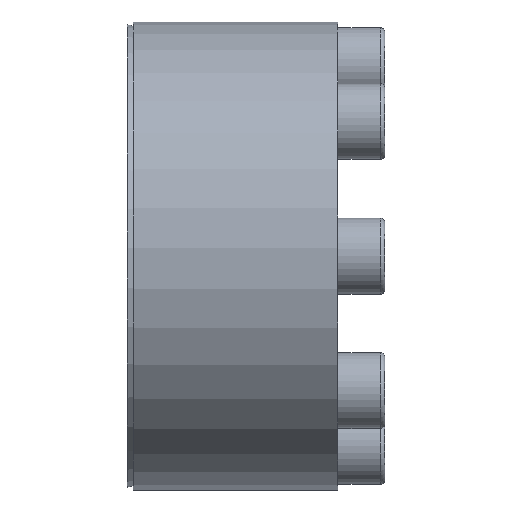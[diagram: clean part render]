
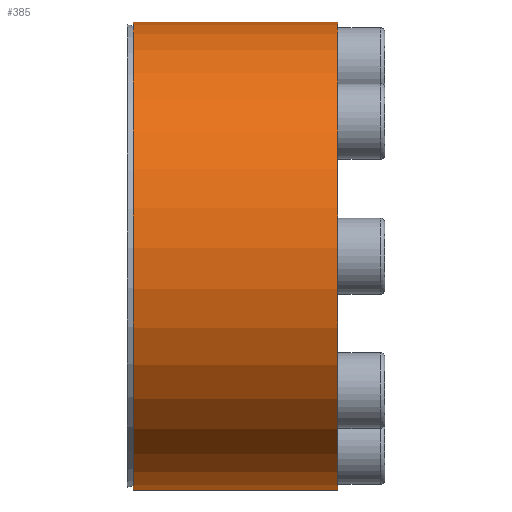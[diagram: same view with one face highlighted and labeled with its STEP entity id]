
A CAD part, left-side view. The second image highlights one B-rep face of the part: STEP entity #385.
In plain terms, the highlighted cylindrical face has radius 40 mm (diameter 80 mm), a partial arc.
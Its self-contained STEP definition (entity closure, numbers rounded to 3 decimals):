
#385 = ADVANCED_FACE( '', ( #600 ), #601, .T. );
#600 = FACE_OUTER_BOUND( '', #720, .T. );
#601 = CYLINDRICAL_SURFACE( '', #721, 40. );
#720 = EDGE_LOOP( '', ( #909, #910, #911, #912 ) );
#721 = AXIS2_PLACEMENT_3D( '', #913, #914, #915 );
#909 = ORIENTED_EDGE( '', *, *, #1138, .T. );
#910 = ORIENTED_EDGE( '', *, *, #1142, .T. );
#911 = ORIENTED_EDGE( '', *, *, #1133, .T. );
#912 = ORIENTED_EDGE( '', *, *, #1119, .T. );
#913 = CARTESIAN_POINT( '', ( 0., -60., 0. ) );
#914 = DIRECTION( '', ( 0., -1., 0. ) );
#915 = DIRECTION( '', ( 0., 0., 1. ) );
#1119 = EDGE_CURVE( '', #1238, #1236, #1239, .T. );
#1133 = EDGE_CURVE( '', #1264, #1238, #1265, .T. );
#1138 = EDGE_CURVE( '', #1236, #1270, #1272, .T. );
#1142 = EDGE_CURVE( '', #1270, #1264, #1277, .F. );
#1236 = VERTEX_POINT( '', #1315 );
#1238 = VERTEX_POINT( '', #1318 );
#1239 = LINE( '', #1319, #1320 );
#1264 = VERTEX_POINT( '', #1352 );
#1265 = CIRCLE( '', #1353, 40. );
#1270 = VERTEX_POINT( '', #1362 );
#1272 = CIRCLE( '', #1365, 40. );
#1277 = LINE( '', #1372, #1373 );
#1315 = CARTESIAN_POINT( '', ( 14.379, 17., 37.326 ) );
#1318 = CARTESIAN_POINT( '', ( 14.379, -18., 37.326 ) );
#1319 = CARTESIAN_POINT( '', ( 14.379, -60., 37.326 ) );
#1320 = VECTOR( '', #1409, 1000. );
#1352 = CARTESIAN_POINT( '', ( 16.226, -18., 36.561 ) );
#1353 = AXIS2_PLACEMENT_3D( '', #1441, #1442, #1443 );
#1362 = CARTESIAN_POINT( '', ( 16.226, 17., 36.561 ) );
#1365 = AXIS2_PLACEMENT_3D( '', #1449, #1450, #1451 );
#1372 = CARTESIAN_POINT( '', ( 16.226, -60., 36.561 ) );
#1373 = VECTOR( '', #1457, 1000. );
#1409 = DIRECTION( '', ( 0., 1., 0. ) );
#1441 = CARTESIAN_POINT( '', ( 0., -18., 0. ) );
#1442 = DIRECTION( '', ( 0., 1., 0. ) );
#1443 = DIRECTION( '', ( 0., 0., 1. ) );
#1449 = CARTESIAN_POINT( '', ( 0., 17., 0. ) );
#1450 = DIRECTION( '', ( 0., -1., 0. ) );
#1451 = DIRECTION( '', ( 0., 0., -1. ) );
#1457 = DIRECTION( '', ( 0., 1., 0. ) );
